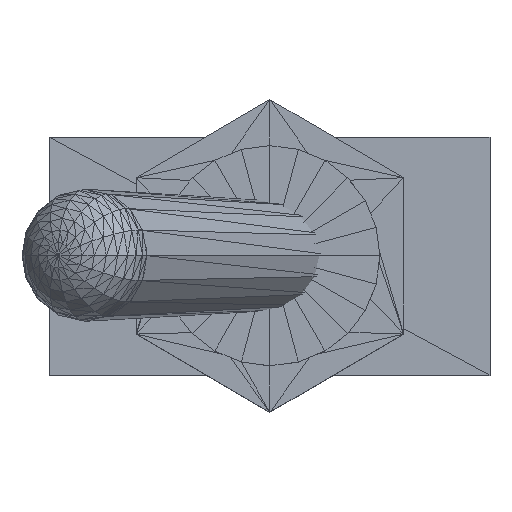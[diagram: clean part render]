
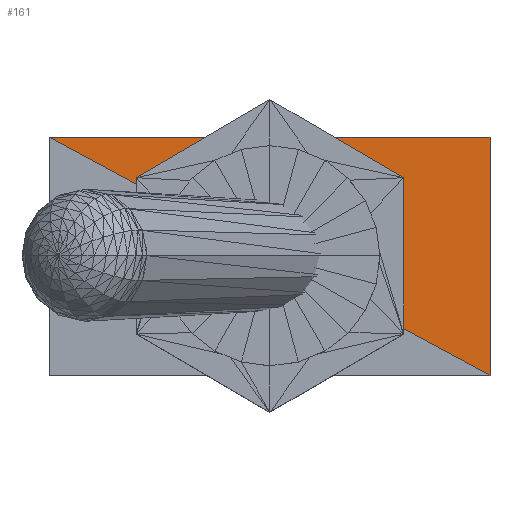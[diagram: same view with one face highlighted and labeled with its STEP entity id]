
A CAD part, top view. The second image highlights one B-rep face of the part: STEP entity #161.
In plain terms, the highlighted planar face has unit normal (0, 0, 1).
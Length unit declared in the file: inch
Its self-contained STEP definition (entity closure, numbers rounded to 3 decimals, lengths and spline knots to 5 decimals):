
#68=CARTESIAN_POINT('',(-0.25,0.13492,0.38753));
#69=VERTEX_POINT('',#68);
#76=CARTESIAN_POINT('',(0.25,-0.13508,0.38747));
#77=VERTEX_POINT('',#76);
#84=CARTESIAN_POINT('',(0.25,-0.13508,0.38747));
#85=DIRECTION('',(-0.88,0.475,0.));
#86=VECTOR('',#85,0.56824);
#87=LINE('',#84,#86);
#88=EDGE_CURVE('',#77,#69,#87,.T.);
#139=CARTESIAN_POINT('',(-0.25,0.13492,0.38753));
#140=DIRECTION('',(0.,0.,1.));
#141=DIRECTION('',(1.,0.,0.));
#142=AXIS2_PLACEMENT_3D('',#139,#140,#141);
#143=PLANE('',#142);
#144=ORIENTED_EDGE('',*,*,#88,.F.);
#145=CARTESIAN_POINT('',(0.25,0.13492,0.38753));
#146=VERTEX_POINT('',#145);
#147=CARTESIAN_POINT('',(0.25,-0.13508,0.38747));
#148=DIRECTION('',(0.,1.,0.));
#149=VECTOR('',#148,0.27);
#150=LINE('',#147,#149);
#151=EDGE_CURVE('',#77,#146,#150,.T.);
#152=ORIENTED_EDGE('',*,*,#151,.T.);
#153=CARTESIAN_POINT('',(-0.25,0.13492,0.38753));
#154=DIRECTION('',(1.,0.,-0.));
#155=VECTOR('',#154,0.5);
#156=LINE('',#153,#155);
#157=EDGE_CURVE('',#69,#146,#156,.T.);
#158=ORIENTED_EDGE('',*,*,#157,.F.);
#159=EDGE_LOOP('',(#144,#152,#158));
#160=FACE_BOUND('',#159,.T.);
#161=ADVANCED_FACE('',(#160),#143,.T.);
